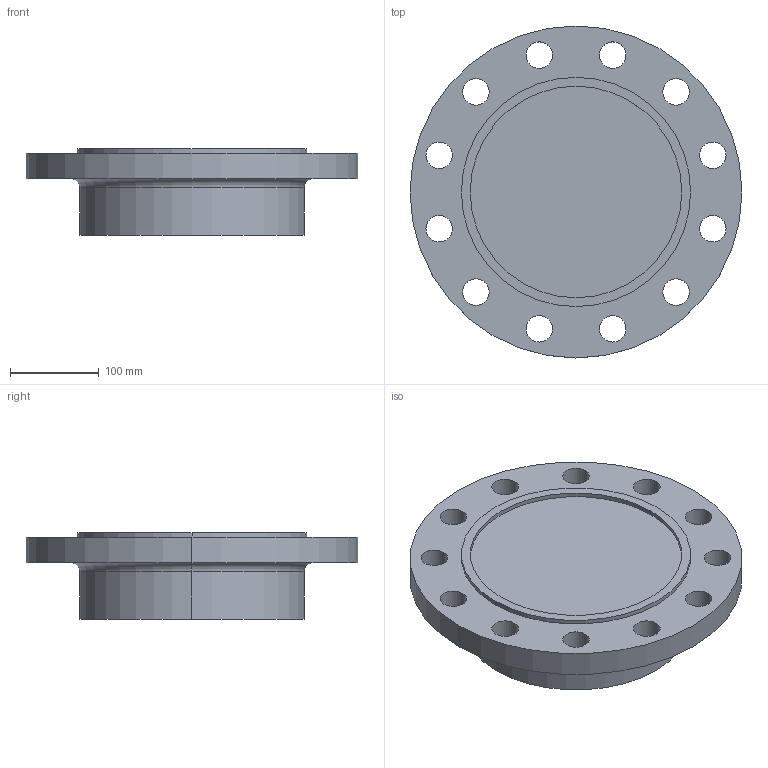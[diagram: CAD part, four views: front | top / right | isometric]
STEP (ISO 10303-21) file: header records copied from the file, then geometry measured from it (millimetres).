
FILE_DESCRIPTION (( 'STEP AP214' ), '1' );
FILE_NAME ('PN40 DN200 Type 21(i) - Type C Face.STEP', '2019-01-05T02:05:26', ( '' ), ( '' ), 'SwSTEP 2.0', 'SolidWorks 2019', '' );
FILE_SCHEMA (( 'AUTOMOTIVE_DESIGN' ));
Length unit declared in the file: millimetre
Products named in the file (1): PN40 DN200 Type 21(i) - Type C Face
Bounding box: 375 x 375 x 98 mm (x, y, z)
Volume: 6256431.5 mm3; surface area: 326403.6 mm2
Topology: 1 solids, 1 shells, 39 faces, 100 edges, 66 vertices
Faces by surface type: cylinder 32, plane 5, torus 2
Entity records: 1308 total; most frequent: DIRECTION 248, CARTESIAN_POINT 206, ORIENTED_EDGE 200, AXIS2_PLACEMENT_3D 108, EDGE_CURVE 100, CIRCLE 68, VERTEX_POINT 66, EDGE_LOOP 66
